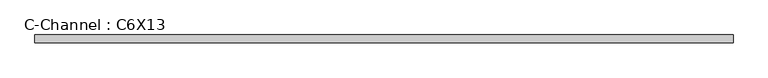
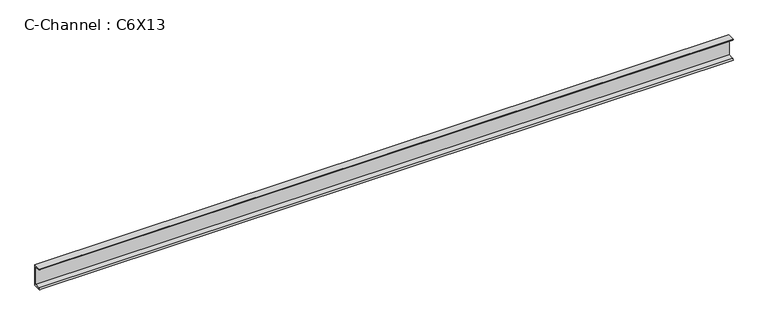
"""IFC4 building model written with IfcOpenShell, lengths in millimetres: beam geometry, C-Channel : C6X13."""

from ifc_helpers import new_model, si_unit, point, frame, frame_2d, origin, place, context, project, spatial, polyline, circle_curve, trimmed, segment, composite_curve, outline, extrude, source, transform, mapped, element, save


def c_channel_c6x13_0d7380c4(model_context):
    return source(origin(), model_context, "Body", "SweptSolid", [
        extrude(outline(composite_curve([segment(polyline([(13.0556, 76.2), (13.0556, -76.2), (-41.8084, -76.2)]), True, "CONTINUOUS"), segment(trimmed(circle_curve(frame_2d((-33.0962, -76.2)), 8.7122), [point((-41.8084, -76.2))], [point((-33.0962, -67.4878))], False, "CARTESIAN"), True, "CONTINUOUS"), segment(polyline([(-33.0962, -67.4878), (1.9558, -61.9361086), (1.9558, 61.9361086), (-33.0962, 67.4878)]), True, "CONTINUOUS"), segment(trimmed(circle_curve(frame_2d((-33.0962, 76.2)), 8.7122), [point((-33.0962, 67.4878))], [point((-41.8084, 76.2))], False, "CARTESIAN"), True, "CONTINUOUS"), segment(polyline([(-41.8084, 76.2), (13.0556, 76.2)]), True, "CONTINUOUS")], self_intersect=False)), frame((-2415.6591959, 0.0, 0.0), z_axis=(1.0, 0.0, 0.0), x_axis=(0.0, 1.0, 0.0)), (0.0, 0.0, 1.0), 4831.3298464),
    ])


if __name__ == "__main__":
    model = new_model("IFC4")
    model_context = context("Model", 3, world=origin())
    ifc_project = project(units=[si_unit("LENGTHUNIT", "METRE", prefix="MILLI")], contexts=[model_context])
    site = spatial("IfcSite", under=ifc_project)
    building = spatial("IfcBuilding", under=site)
    placement = place(None, origin())
    c_channel_c6x13_shape = c_channel_c6x13_0d7380c4(model_context)
    element("IfcBeam", 1, ObjectType="C-Channel : C6X13", at=placement, inside=building, context=model_context, shape_type="MappedRepresentation", body=[
        mapped(c_channel_c6x13_shape, transform((0.0, 0.0, 0.0), x_axis=(1.0, 0.0, 0.0), y_axis=(0.0, 1.0, 0.0), z_axis=(0.0, 0.0, 1.0))),
    ])
    save(model, "model.ifc")
